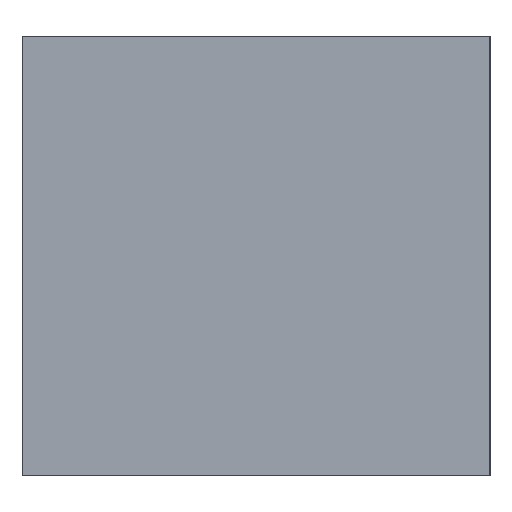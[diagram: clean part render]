
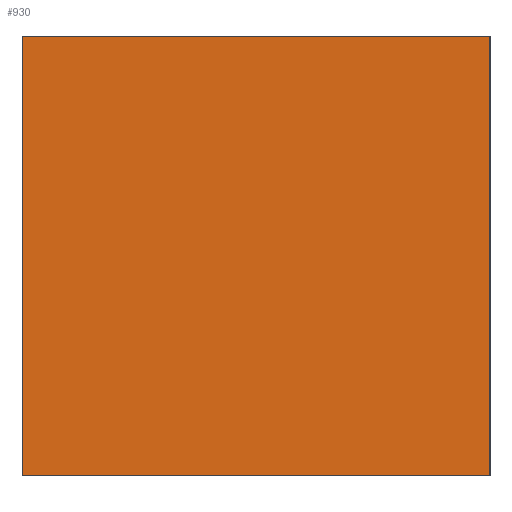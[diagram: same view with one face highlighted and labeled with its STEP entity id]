
A CAD part, left-side view. The second image highlights one B-rep face of the part: STEP entity #930.
In plain terms, the highlighted planar face has unit normal (-1, 0, 0).
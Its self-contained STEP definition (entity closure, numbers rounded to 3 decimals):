
#796=CARTESIAN_POINT('',(-1.549,-0.851,0.0));
#795=VERTEX_POINT('',#796);
#814=CARTESIAN_POINT('',(-1.549,-0.851,1.6));
#813=VERTEX_POINT('',#814);
#822=EDGE_CURVE('',#795,#813,#827,.T.);
#827=LINE('',#796,#829);
#829=VECTOR('',#830,1.6);
#830=DIRECTION('',(0.0,0.0,1.0));
#892=CARTESIAN_POINT('',(-1.549,0.851,0.0));
#891=VERTEX_POINT('',#892);
#902=CARTESIAN_POINT('',(-1.549,0.851,1.6));
#901=VERTEX_POINT('',#902);
#900=EDGE_CURVE('',#901,#891,#905,.T.);
#905=LINE('',#902,#907);
#907=VECTOR('',#908,1.6);
#908=DIRECTION('',(0.0,0.0,-1.0));
#930=ADVANCED_FACE('',(#936),#931,.T.);
#931=PLANE('',#932);
#932=AXIS2_PLACEMENT_3D('',#933,#934,#935);
#933=CARTESIAN_POINT('',(-1.549,0.851,0.0));
#934=DIRECTION('',(-1.0,0.0,0.0));
#935=DIRECTION('',(0.,0.,1.));
#936=FACE_OUTER_BOUND('',#937,.T.);
#937=EDGE_LOOP('',(#938,#948,#958,#968));
#939=EDGE_CURVE('',#795,#891,#944,.T.);
#944=LINE('',#796,#946);
#946=VECTOR('',#947,1.702);
#947=DIRECTION('',(0.0,1.0,0.0));
#938=ORIENTED_EDGE('',*,*,#939,.F.);
#948=ORIENTED_EDGE('',*,*,#822,.T.);
#959=EDGE_CURVE('',#901,#813,#964,.T.);
#964=LINE('',#902,#966);
#966=VECTOR('',#967,1.702);
#967=DIRECTION('',(0.0,-1.0,0.0));
#958=ORIENTED_EDGE('',*,*,#959,.F.);
#968=ORIENTED_EDGE('',*,*,#900,.T.);
